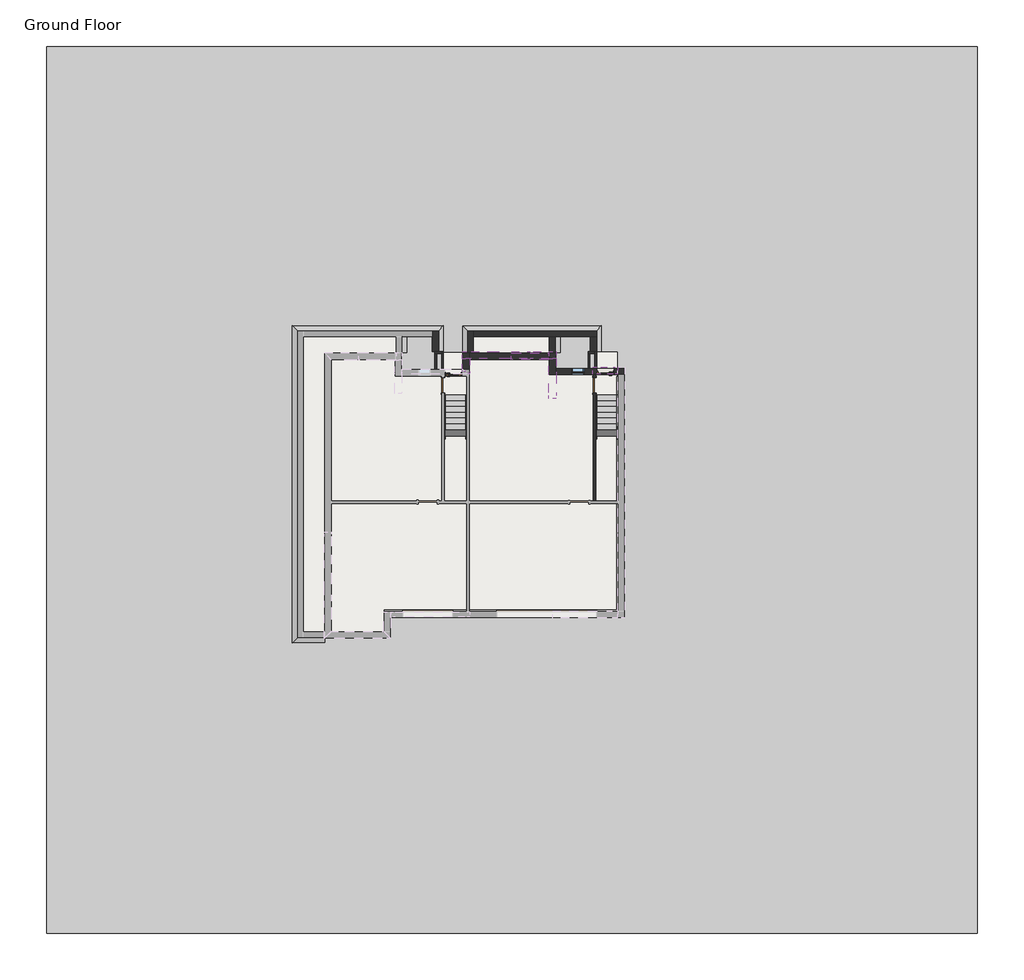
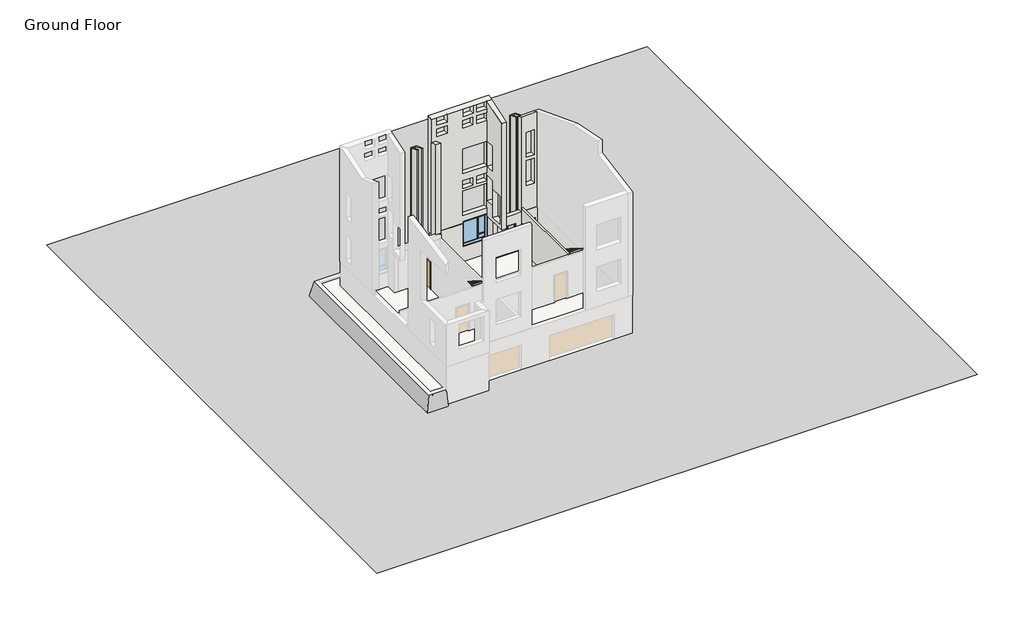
# One storey, part 2 of 2: 20 walls, 10 proxies, 4 doors, 4 members, 4 slabs, 2 stair flights, 2 windows.
"""IFC4 building model written with IfcOpenShell, lengths in millimetres."""

from ifc_helpers import new_model, si_unit, frame, origin, place, context, project, spatial, polyline, outline, extrude, faceted_brep, triangles, transform, mapped, element, save
from components import door_c549eee2, door_6cd5b398, door_f8acb57e, stair_flight_0e8ae0be, stair_flight_49ee623f, window_ca6665d5, window_0918d598

model = new_model("IFC4")

# Units and contexts
model_context = context("Model", 3, world=origin())
ifc_project = project(units=[si_unit("LENGTHUNIT", "METRE", prefix="MILLI")], contexts=[model_context])

# Site, building, storey
site = spatial("IfcSite", under=ifc_project)
building = spatial("IfcBuilding", under=site)
storey = spatial("IfcBuildingStorey", under=building, Name="Ground Floor", Elevation=-3352.8)

# Proxies
placement = place(None, origin())
element("IfcBuildingElementProxy", 1, Name="Wall Sweeps", at=placement, inside=storey, context=model_context, shape_type="Brep", body=[
    faceted_brep([(-10227.7074129, -7419.7196644, -3352.8), (-9990.71894, -7182.7311915, -3352.8), (-9990.71894, -7182.7311915, -2133.6), (-10227.7074129, 8059.3072814, -3352.8), (-9990.7189399, 7822.3188085, -2133.6), (-9990.7189399, 7822.3188085, -3352.8)], [[[0, 1, 2]], [[3, 4, 5]], [[1, 0, 3, 5]], [[2, 1, 5, 4]], [[0, 2, 4, 3]]]),
])
element("IfcBuildingElementProxy", 2, Name="Wall Sweeps", at=placement, inside=storey, context=model_context, shape_type="Brep", body=[
    faceted_brep([(-10227.7074129, 8059.3072814, -3352.8), (-9990.7189399, 7822.3188085, -3352.8), (-9990.7189399, 7822.3188085, -2133.6), (-2853.5235601, 8059.3072814, -3352.8), (-3090.512033, 7822.3188085, -2133.6), (-3090.512033, 7822.3188085, -3352.8), (-3395.312033, 7822.3188085, -3352.8), (-9685.9189399, 7822.3188085, -3352.8)], [[[0, 1, 2]], [[3, 4, 5]], [[1, 0, 3, 5, 6, 7]], [[2, 1, 7, 6, 5, 4]], [[0, 2, 4, 3]]]),
])
element("IfcBuildingElementProxy", 3, Name="Wall Sweeps", at=placement, inside=storey, context=model_context, shape_type="Brep", body=[
    faceted_brep([(-2853.5235601, 8059.3072814, -3352.8), (-3090.512033, 7822.3188085, -3352.8), (-3090.512033, 7822.3188085, -2133.6), (-2853.5235601, 6797.6813085, -3352.8), (-3090.512033, 6797.6813085, -2133.6), (-3090.512033, 6797.6813085, -3352.8)], [[[0, 1, 2]], [[3, 4, 5]], [[1, 0, 3, 5]], [[2, 1, 5, 4]], [[0, 2, 4, 3]]]),
])
element("IfcBuildingElementProxy", 4, Name="Wall Sweeps", at=placement, inside=storey, context=model_context, shape_type="Brep", body=[
    faceted_brep([(-1930.1321781, 6743.5063085, -3352.8), (-1693.1437052, 6743.5063085, -3352.8), (-1693.1437052, 6743.5063085, -2133.6), (-1930.1321781, 8059.3072814, -3352.8), (-1693.1437052, 7822.3188085, -2133.6), (-1693.1437052, 7822.3188085, -3352.8)], [[[0, 1, 2]], [[3, 4, 5]], [[1, 0, 3, 5]], [[2, 1, 5, 4]], [[0, 2, 4, 3]]]),
])
element("IfcBuildingElementProxy", 5, Name="Wall Sweeps", at=placement, inside=storey, context=model_context, shape_type="Brep", body=[
    faceted_brep([(-1930.1321781, 8059.3072814, -3352.8), (-1693.1437052, 7822.3188085, -3352.8), (-1693.1437052, 7822.3188085, -2133.6), (4859.3565886, 8059.3072814, -3352.8), (4622.3681157, 7822.3188085, -2133.6), (4622.3681157, 7822.3188085, -3352.8), (-1388.3437052, 7822.3188085, -3352.8)], [[[0, 1, 2]], [[3, 4, 5]], [[1, 0, 3, 5, 6]], [[2, 1, 6, 5, 4]], [[0, 2, 4, 3]]]),
])
element("IfcBuildingElementProxy", 6, Name="Wall Sweeps", at=placement, inside=storey, context=model_context, shape_type="Brep", body=[
    faceted_brep([(4859.3565886, 8059.3072814, -3352.8), (4622.3681157, 7822.3188085, -3352.8), (4622.3681157, 7822.3188085, -2133.6), (4859.3565886, 6797.6813085, -3352.8), (4622.3681157, 6797.6813085, -2133.6), (4622.3681157, 6797.6813085, -3352.8), (4622.3681157, 7517.5188085, -3352.8)], [[[0, 1, 2]], [[3, 4, 5]], [[1, 0, 3, 5, 6]], [[2, 1, 6, 5, 4]], [[0, 2, 4, 3]]]),
])
element("IfcBuildingElementProxy", 7, Name="Wall Sweeps", at=placement, inside=storey, context=model_context, shape_type="SweptSolid", body=[
    extrude(outline(polyline([(-3352.8, -4619.0437052), (-2133.6, -4856.0321781), (-3352.8, -4856.0321781), (-3352.8, -4619.0437052)])), frame((0.0, 6743.5063085, 0.0), z_axis=(0.0, 1.0, 0.0), x_axis=(0.0, 0.0, 1.0)), (0.0, 0.0, 1.0), 774.0125),
])
element("IfcBuildingElementProxy", 8, Name="Wall Sweeps", at=placement, inside=storey, context=model_context, shape_type="SweptSolid", body=[
    extrude(outline(polyline([(-3352.8, 2863.2437948), (-2133.6, 2626.2553219), (-3352.8, 2626.2553219), (-3352.8, 2863.2437948)])), frame((0.0, 6743.5063085, 0.0), z_axis=(0.0, 1.0, 0.0), x_axis=(0.0, 0.0, 1.0)), (0.0, 0.0, 1.0), 774.0125),
])
element("IfcBuildingElementProxy", 9, Name="Wall Sweeps", at=placement, inside=storey, context=model_context, shape_type="Brep", body=[
    faceted_brep([(-10227.7074129, -7419.7196644, -3352.8), (-9990.71894, -7182.7311915, -2133.6), (-9990.71894, -7182.7311915, -3352.8), (-8634.8446781, -7419.7196644, -3352.8), (-8634.8446781, -7182.7311915, -3352.8), (-8634.8446781, -7182.7311915, -2133.6), (-9685.91894, -7182.7311915, -3352.8)], [[[0, 1, 2]], [[3, 4, 5]], [[1, 0, 3, 5]], [[2, 1, 5, 4, 6]], [[0, 2, 6, 4, 3]]]),
])
element("IfcBuildingElementProxy", 10, Name="Building Element Proxy", at=placement, inside=storey, context=model_context, shape_type="Tessellation", body=[
    triangles([(-22213.6324768, 21686.9692749, -3352.8), (-22213.6324768, -21594.6307251, -3352.8), (23201.5675232, -21594.6307251, -3352.8), (23201.5675232, 21686.9692749, -3352.8), (-8639.2697617, -7182.7313416, -3352.8), (-8639.2697617, 6718.1062134, -3352.8), (-4906.8318878, 6718.1062134, -3352.8), (-4906.8318878, 5912.9687302, -3352.8), (-2853.5234985, 5912.9687302, -3352.8), (-2853.5234985, 6718.1062134, -3352.8), (2626.255394, 6718.1062134, -3352.8), (2626.255394, 5970.1187302, -3352.8), (4622.3681465, 5970.1187302, -3352.8), (4622.3681465, 6763.3063614, -3352.8), (5617.580365, 6762.9313843, -3352.8), (5617.580365, 5970.1187302, -3352.8), (5971.2657532, 5970.1187302, -3352.8), (5971.2657532, 5266.1436768, -3352.8), (5971.2657532, -6186.9049164, -3352.8), (-5437.2820679, -6186.9049164, -3352.8), (-5437.2820679, -7182.7313416, -3352.8), (-7091.2863419, -7182.7313416, -3352.8)], [[2, 5, 6], [5, 2, 22], [21, 22, 2], [2, 3, 21], [1, 6, 7], [6, 1, 2], [1, 7, 10], [8, 9, 10], [8, 10, 7], [1, 10, 11], [20, 21, 19], [12, 13, 11], [18, 19, 3], [3, 19, 21], [18, 3, 4], [13, 14, 11], [11, 14, 4], [15, 17, 4], [17, 15, 16], [4, 17, 18], [15, 4, 14], [11, 4, 1]], closed=False),
])

# Doors
door_shape = door_c549eee2(model_context)
element("IfcDoor", 11, ObjectType="Door-Passage-Single-Full_Lite : 30\" x 84\"", at=placement, inside=storey, context=model_context, shape_type="MappedRepresentation", body=[
    mapped(door_shape, transform((5056.8655789, 5824.0687973, -3352.8), x_axis=(-1.0, 0.0, 0.0), y_axis=(0.0, -1.0, 0.0), z_axis=(0.0, 0.0, 1.0))),
])
door_2_shape = door_6cd5b398(model_context)
element("IfcDoor", 12, ObjectType="Door-Passage-Single-Full_Lite : 30\" x 84\"", at=placement, inside=storey, context=model_context, shape_type="MappedRepresentation", body=[
    mapped(door_2_shape, transform((-2361.9321781, 5766.9187973, -3352.8), x_axis=(1.0, 0.0, 0.0), y_axis=(0.0, 1.0, 0.0), z_axis=(0.0, 0.0, 1.0))),
])
door_3_shape = door_f8acb57e(model_context)
element("IfcDoor", 13, ObjectType="Single-Flush : 30\" x 84\"", at=placement, inside=storey, context=model_context, shape_type="MappedRepresentation", body=[
    mapped(door_3_shape, transform((-2877.8696781, 5150.9688085, -3352.8), x_axis=(0.0, 1.0, 0.0), y_axis=(-1.0, 0.0, 0.0), z_axis=(0.0, 0.0, 1.0))),
])
element("IfcDoor", 14, ObjectType="Single-Flush : 30\" x 84\"", at=placement, inside=storey, context=model_context, shape_type="MappedRepresentation", body=[
    mapped(door_3_shape, transform((4512.3530789, 5150.9687973, -3352.8), x_axis=(0.0, 1.0, 0.0), y_axis=(-1.0, 0.0, 0.0), z_axis=(0.0, 0.0, 1.0))),
])

# Members
element("IfcMember", 15, ObjectType="Stringer - 2\" Width", at=placement, inside=storey, context=model_context, shape_type="SweptSolid", body=[
    extrude(outline(polyline([(4664.2563085, -3138.2556274), (4664.2563085, -3352.8), (4433.1575568, -3352.8), (-364.9436915, -322.4202643), (-364.9436915, 38.0812147), (4664.2563085, -3138.2556274)])), frame((-1774.5571781, 0.0, 0.0), z_axis=(1.0, 0.0, 0.0), x_axis=(0.0, 1.0, 0.0)), (0.0, 0.0, 1.0), 50.8),
])
element("IfcMember", 16, ObjectType="Stringer - 2\" Width", at=placement, inside=storey, context=model_context, shape_type="SweptSolid", body=[
    extrude(outline(polyline([(4664.2563085, -3138.2556274), (4664.2563085, -3352.8), (4433.1575568, -3352.8), (-364.9436915, -322.4202643), (-364.9436915, 38.0812147), (4664.2563085, -3138.2556274)])), frame((-2815.9571781, 0.0, 0.0), z_axis=(1.0, 0.0, 0.0), x_axis=(0.0, 1.0, 0.0)), (0.0, 0.0, 1.0), 50.8),
])
element("IfcMember", 17, ObjectType="Stringer - 2\" Width", at=placement, inside=storey, context=model_context, shape_type="SweptSolid", body=[
    extrude(outline(polyline([(4664.2563085, -3138.2556274), (4664.2563085, -3352.8), (4433.1575568, -3352.8), (-364.9436915, -322.4202643), (-364.9436915, 38.0812147), (4664.2563085, -3138.2556274)])), frame((5615.6655789, 0.0, 0.0), z_axis=(1.0, 0.0, 0.0), x_axis=(0.0, 1.0, 0.0)), (0.0, 0.0, 1.0), 50.8),
])
element("IfcMember", 18, ObjectType="Stringer - 2\" Width", at=placement, inside=storey, context=model_context, shape_type="SweptSolid", body=[
    extrude(outline(polyline([(4664.2563085, -3138.2556274), (4664.2563085, -3352.8), (4433.1575568, -3352.8), (-364.9436915, -322.4202643), (-364.9436915, 38.0812147), (4664.2563085, -3138.2556274)])), frame((4574.2655789, 0.0, 0.0), z_axis=(1.0, 0.0, 0.0), x_axis=(0.0, 1.0, 0.0)), (0.0, 0.0, 1.0), 50.8),
])

# Slabs
element("IfcSlab", 19, ObjectType="Generic - 12\"", at=placement, inside=storey, context=model_context, shape_type="SweptSolid", body=[
    extrude(outline(polyline([(-5211.6321781, 6413.3063085), (-5211.6321781, 5582.7688085), (-2853.5235601, 5582.7688085), (-2853.5235601, 6744.2563085), (-1904.7321781, 6744.2563085), (-1904.7321781, 5912.9687973), (-1980.9321781, 5912.9687973), (-1980.9321781, 5582.7688085), (-1599.9321781, 5582.7688085), (-1599.9321781, 6413.3063085), (2321.4553219, 6413.3063085), (2321.4553219, 5665.3187973), (4622.3681157, 5665.3187973), (4622.3681157, 6763.3063085), (5619.4139399, 6762.9313085), (5619.4139399, 5608.4393825), (5585.5030788, 5608.4393825), (5585.5030788, -5801.1421456), (-5767.4821781, -5801.1421456), (-5767.4821781, -6852.5311915), (-8310.6571781, -6852.5311915), (-8310.6571781, 6413.3063085), (-5211.6321781, 6413.3063085)])), frame((0.0, 0.0, -3657.6), z_axis=(0.0, 0.0, 1.0), x_axis=(1.0, 0.0, 0.0)), (0.0, 0.0, 1.0), 304.8),
])
element("IfcSlab", 20, ObjectType="Grass", at=placement, inside=storey, context=model_context, shape_type="SweptSolid", body=[
    extrude(outline(polyline([(-5160.8321781, 7517.5188085), (-5160.8321781, 6743.5063085), (-8660.2446781, 6743.5063085), (-8660.2446781, -6877.9311915), (-9685.91894, -6877.9311915), (-9685.91894, 7517.5188085), (-5160.8321781, 7517.5188085)])), frame((0.0, 0.0, -2278.2), z_axis=(0.0, 0.0, 1.0), x_axis=(1.0, 0.0, 0.0)), (0.0, 0.0, 1.0), 25.4),
])
element("IfcSlab", 21, ObjectType="Grass", at=placement, inside=storey, context=model_context, shape_type="SweptSolid", body=[
    extrude(outline(polyline([(-1388.3437052, 7517.5188085), (2321.4553219, 7517.5188085), (2321.4553219, 6718.1063085), (-1388.3437052, 6718.1063085), (-1388.3437052, 7517.5188085)])), frame((0.0, 0.0, -2278.2), z_axis=(0.0, 0.0, 1.0), x_axis=(1.0, 0.0, 0.0)), (0.0, 0.0, 1.0), 25.4),
])
element("IfcSlab", 22, ObjectType="Pad 1", at=placement, inside=storey, context=model_context, shape_type="SweptSolid", body=[
    extrude(outline(polyline([(-8639.2696781, -7182.7311915), (-8639.2696781, 6718.1063085), (-4906.8321781, 6718.1063085), (-4906.8321781, 5912.9687973), (-2853.5235601, 5912.9687973), (-2853.5235601, 6718.1063085), (2626.2553219, 6718.1063085), (2626.2553219, 5970.1187973), (4622.3681157, 5970.1187973), (4622.3681157, 6763.3063085), (5617.5803262, 6762.9313085), (5617.5803262, 5970.1187973), (5971.2655789, 5970.1187973), (5971.2655789, -6186.9046456), (-5437.2821781, -6186.9046456), (-5437.2821781, -7182.7311915), (-8639.2696781, -7182.7311915)])), frame((0.0, 0.0, -3962.4), z_axis=(0.0, 0.0, 1.0), x_axis=(1.0, 0.0, 0.0)), (0.0, 0.0, 1.0), 304.8),
])

# Stair flights
stair_flight_shape = stair_flight_0e8ae0be(model_context)
element("IfcStairFlight", 23, ObjectType="2\" Tread 1\" Nosing 1/4\" Riser", at=placement, inside=storey, context=model_context, shape_type="MappedRepresentation", body=[
    mapped(stair_flight_shape, transform((0.0, 0.0, 0.0), x_axis=(1.0, 0.0, 0.0), y_axis=(0.0, 1.0, 0.0), z_axis=(0.0, 0.0, 1.0))),
])
stair_flight_2_shape = stair_flight_49ee623f(model_context)
element("IfcStairFlight", 24, ObjectType="2\" Tread 1\" Nosing 1/4\" Riser", at=placement, inside=storey, context=model_context, shape_type="MappedRepresentation", body=[
    mapped(stair_flight_2_shape, transform((0.0, 0.0, 0.0), x_axis=(1.0, 0.0, 0.0), y_axis=(0.0, 1.0, 0.0), z_axis=(0.0, 0.0, 1.0))),
])

# Walls
element("IfcWall", 25, ObjectType="Exterior - Brick - Gray", at=placement, inside=storey, context=model_context, shape_type="Brep", body=[
    faceted_brep([(4622.3681157, 5995.5187973, -3352.8), (4622.3681157, 6797.6813085, -3352.8), (4622.3681157, 6797.6813085, 6846.4925469), (4622.3681157, 5995.5187973, 7155.302725), (4533.4681157, 5995.5187973, -3352.8), (4533.4681157, 5995.5187973, 7155.302725), (4533.4681157, 6708.7813085, 6880.7165657), (4533.4681157, 6797.6813085, 6846.4925469), (4533.4681157, 6797.6813085, -3352.8), (4533.4681157, 6708.7813085, -3352.8)], [[[0, 1, 2, 3]], [[4, 5, 6, 7, 8, 9]], [[1, 0, 4, 9, 8]], [[0, 3, 5, 4]], [[2, 1, 8, 7]], [[3, 2, 7, 6, 5]]]),
])
element("IfcWall", 26, ObjectType="Exterior - Brick - Gray", at=placement, inside=storey, context=model_context, shape_type="Brep", body=[
    faceted_brep([(4533.4681157, 6797.6813085, -3352.8), (4204.5264399, 6797.6813085, -3352.8), (4204.5264399, 6797.6813085, 6846.4925469), (4533.4681157, 6797.6813085, 6846.4925469), (4533.4681157, 6708.7813085, -3352.8), (4533.4681157, 6708.7813085, 6880.7165657), (4293.4264399, 6708.7813085, 6880.7165657), (4204.5264399, 6708.7813085, 6880.7165657), (4204.5264399, 6708.7813085, -3352.8), (4293.4264399, 6708.7813085, -3352.8)], [[[0, 1, 2, 3]], [[4, 5, 6, 7, 8, 9]], [[1, 0, 4, 9, 8]], [[2, 1, 8, 7]], [[0, 3, 5, 4]], [[3, 2, 7, 6, 5]]]),
])
element("IfcWall", 27, ObjectType="Exterior - Brick - Gray", at=placement, inside=storey, context=model_context, shape_type="SweptSolid", body=[
    extrude(outline(polyline([(6708.7813085, -3352.8), (5995.5187973, -3352.8), (5995.5187973, 7155.302725), (6708.7813085, 6880.7165657), (6708.7813085, -3352.8)])), frame((4204.5264399, 0.0, 0.0), z_axis=(1.0, 0.0, 0.0), x_axis=(0.0, 1.0, 0.0)), (0.0, 0.0, 1.0), 88.9),
])
element("IfcWall", 28, ObjectType="Exterior - Brick - Gray", at=placement, inside=storey, context=model_context, shape_type="Brep", body=[
    faceted_brep([(-2853.5235601, 5912.9687973, -3352.8), (-2853.5235601, 6797.6813085, -3352.8), (-2853.5235601, 6797.6813085, 6846.4925469), (-2853.5235601, 5912.9687973, 7187.082171), (-2942.4235601, 5912.9687973, -3352.8), (-2942.4235601, 5912.9687973, 7187.082171), (-2942.4235601, 6708.7813085, 6880.7165657), (-2942.4235601, 6797.6813085, 6846.4925469), (-2942.4235601, 6797.6813085, -3352.8), (-2942.4235601, 6708.7813085, -3352.8)], [[[0, 1, 2, 3]], [[4, 5, 6, 7, 8, 9]], [[1, 0, 4, 9, 8]], [[2, 1, 8, 7]], [[0, 3, 5, 4]], [[3, 2, 7, 6, 5]]]),
])
element("IfcWall", 29, ObjectType="Exterior - Brick - Gray", at=placement, inside=storey, context=model_context, shape_type="Brep", body=[
    faceted_brep([(-2942.4235601, 6797.6813085, -3352.8), (-3266.2735601, 6797.6813085, -3352.8), (-3266.2735601, 6797.6813085, 6846.4925469), (-2942.4235601, 6797.6813085, 6846.4925469), (-2942.4235601, 6708.7813085, -3352.8), (-2942.4235601, 6708.7813085, 6880.7165657), (-3177.3735601, 6708.7813085, 6880.7165657), (-3266.2735601, 6708.7813085, 6880.7165657), (-3266.2735601, 6708.7813085, -3352.8), (-3177.3735601, 6708.7813085, -3352.8)], [[[0, 1, 2, 3]], [[4, 5, 6, 7, 8, 9]], [[1, 0, 4, 9, 8]], [[2, 1, 8, 7]], [[0, 3, 5, 4]], [[3, 2, 7, 6, 5]]]),
])
element("IfcWall", 30, ObjectType="Exterior - Brick - Gray", at=placement, inside=storey, context=model_context, shape_type="SweptSolid", body=[
    extrude(outline(polyline([(6708.7813085, -3352.8), (5938.3687973, -3352.8), (5938.3687973, 7177.3038799), (6708.7813085, 6880.7165657), (6708.7813085, -3352.8)])), frame((-3266.2735601, 0.0, 0.0), z_axis=(1.0, 0.0, 0.0), x_axis=(0.0, 1.0, 0.0)), (0.0, 0.0, 1.0), 88.9),
])
element("IfcWall", 31, ObjectType="Exterior - Brick on Mtl. Stud", at=placement, inside=storey, context=model_context, shape_type="Brep", body=[
    faceted_brep([(-1928.5446781, 6447.0188085, 8841.1995281), (-1928.5446781, 6447.0188085, 7308.0940019), (-1928.5446781, 6447.0188085, 6981.4878222), (-1928.5446781, 6447.0188085, -304.8), (-1576.1196781, 6447.0188085, -304.8), (468.8428219, 6447.0188085, -304.8), (468.8428219, 6447.0188085, -152.4), (2297.6428219, 6447.0188085, -152.4), (2297.6428219, 6447.0188085, -304.8), (2650.0678219, 6447.0188085, -304.8), (2650.0678219, 6447.0188085, 8841.1995281), (2297.6428219, 6447.0188085, 8841.1995281), (-1576.1196781, 6447.0188085, 8841.1995281), (2298.8553219, 6447.0188085, 3098.8), (2298.8553219, 6447.0188085, 2489.2), (1536.8553219, 6447.0188085, 2489.2), (1536.8553219, 6447.0188085, 3098.8), (2298.8553219, 6447.0188085, 5638.8), (2298.8553219, 6447.0188085, 3657.6), (470.0553219, 6447.0188085, 3657.6), (470.0553219, 6447.0188085, 5638.8), (2298.8553219, 6447.0188085, 7924.8), (2298.8553219, 6447.0188085, 7315.2), (1536.8553219, 6447.0188085, 7315.2), (1536.8553219, 6447.0188085, 7924.8), (2298.8553219, 6447.0188085, 8839.2), (2298.8553219, 6447.0188085, 8229.6), (1536.8553219, 6447.0188085, 8229.6), (1536.8553219, 6447.0188085, 8839.2), (2298.8553219, 6447.0188085, 2286.0), (2298.8553219, 6447.0188085, 304.8), (470.0553219, 6447.0188085, 304.8), (470.0553219, 6447.0188085, 2286.0), (1232.0553219, 6447.0188085, 3098.8), (1232.0553219, 6447.0188085, 2489.2), (470.0553219, 6447.0188085, 2489.2), (470.0553219, 6447.0188085, 3098.8), (1246.4553219, 6447.0188085, 8839.2), (1246.4553219, 6447.0188085, 8229.6), (484.4553219, 6447.0188085, 8229.6), (484.4553219, 6447.0188085, 8839.2), (-721.7446781, 6447.0188085, 7924.8), (-721.7446781, 6447.0188085, 7315.2), (-1483.7446781, 6447.0188085, 7315.2), (-1483.7446781, 6447.0188085, 7924.8), (-721.7446781, 6447.0188085, 8839.2), (-721.7446781, 6447.0188085, 8229.6), (-1483.7446781, 6447.0188085, 8229.6), (-1483.7446781, 6447.0188085, 8839.2), (1232.0553219, 6447.0188085, 7924.8), (1232.0553219, 6447.0188085, 7315.2), (470.0553219, 6447.0188085, 7315.2), (470.0553219, 6447.0188085, 7924.8), (-1928.5446781, 6799.4438085, -304.8), (-1928.5446781, 6799.4438085, 8957.0833207), (2650.0678219, 6799.4438085, 8957.0833207), (2650.0678219, 6799.4438085, -304.8), (2297.6428219, 6799.4438085, -304.8), (2297.6428219, 6799.4438085, -152.4), (468.8428219, 6799.4438085, -152.4), (468.8428219, 6799.4438085, -304.8), (2298.8553219, 6799.4438085, 2489.2), (2298.8553219, 6799.4438085, 3098.8), (1536.8553219, 6799.4438085, 3098.8), (1536.8553219, 6799.4438085, 2489.2), (2298.8553219, 6799.4438085, 3657.6), (2298.8553219, 6799.4438085, 5638.8), (470.0553219, 6799.4438085, 5638.8), (470.0553219, 6799.4438085, 3657.6), (2298.8553219, 6799.4438085, 7315.2), (2298.8553219, 6799.4438085, 7924.8), (1536.8553219, 6799.4438085, 7924.8), (1536.8553219, 6799.4438085, 7315.2), (2298.8553219, 6799.4438085, 8229.6), (2298.8553219, 6799.4438085, 8839.2), (1536.8553219, 6799.4438085, 8839.2), (1536.8553219, 6799.4438085, 8229.6), (2298.8553219, 6799.4438085, 304.8), (2298.8553219, 6799.4438085, 2286.0), (470.0553219, 6799.4438085, 2286.0), (470.0553219, 6799.4438085, 304.8), (1232.0553219, 6799.4438085, 2489.2), (1232.0553219, 6799.4438085, 3098.8), (470.0553219, 6799.4438085, 3098.8), (470.0553219, 6799.4438085, 2489.2), (1246.4553219, 6799.4438085, 8229.6), (1246.4553219, 6799.4438085, 8839.2), (484.4553219, 6799.4438085, 8839.2), (484.4553219, 6799.4438085, 8229.6), (-721.7446781, 6799.4438085, 7315.2), (-721.7446781, 6799.4438085, 7924.8), (-1483.7446781, 6799.4438085, 7924.8), (-1483.7446781, 6799.4438085, 7315.2), (-721.7446781, 6799.4438085, 8229.6), (-721.7446781, 6799.4438085, 8839.2), (-1483.7446781, 6799.4438085, 8839.2), (-1483.7446781, 6799.4438085, 8229.6), (1232.0553219, 6799.4438085, 7924.8), (470.0553219, 6799.4438085, 7924.8), (470.0553219, 6799.4438085, 7315.2), (1232.0553219, 6799.4438085, 7315.2)], [[[0, 1, 2, 3, 4, 5, 6, 7, 8, 9, 10, 11, 12], [13, 14, 15, 16], [17, 18, 19, 20], [21, 22, 23, 24], [25, 26, 27, 28], [29, 30, 31, 32], [33, 34, 35, 36], [37, 38, 39, 40], [41, 42, 43, 44], [45, 46, 47, 48], [49, 50, 51, 52]], [[53, 54, 55, 56, 57, 58, 59, 60], [61, 62, 63, 64], [65, 66, 67, 68], [69, 70, 71, 72], [73, 74, 75, 76], [77, 78, 79, 80], [81, 82, 83, 84], [85, 86, 87, 88], [89, 90, 91, 92], [93, 94, 95, 96], [97, 98, 99, 100]], [[3, 53, 60, 5, 4]], [[56, 9, 8, 57]], [[3, 2, 1, 0, 54, 53]], [[0, 12, 11, 10, 55, 54]], [[10, 9, 56, 55]], [[7, 58, 57, 8]], [[59, 6, 5, 60]], [[58, 7, 6, 59]], [[13, 62, 61, 14]], [[14, 61, 64, 15]], [[15, 64, 63, 16]], [[62, 13, 16, 63]], [[17, 66, 65, 18]], [[18, 65, 68, 19]], [[19, 68, 67, 20]], [[66, 17, 20, 67]], [[21, 70, 69, 22]], [[22, 69, 72, 23]], [[23, 72, 71, 24]], [[70, 21, 24, 71]], [[25, 74, 73, 26]], [[26, 73, 76, 27]], [[27, 76, 75, 28]], [[74, 25, 28, 75]], [[29, 78, 77, 30]], [[30, 77, 80, 31]], [[31, 80, 79, 32]], [[78, 29, 32, 79]], [[34, 33, 82, 81]], [[35, 34, 81, 84]], [[36, 35, 84, 83]], [[33, 36, 83, 82]], [[37, 86, 85, 38]], [[38, 85, 88, 39]], [[39, 88, 87, 40]], [[86, 37, 40, 87]], [[42, 41, 90, 89]], [[43, 42, 89, 92]], [[44, 43, 92, 91]], [[41, 44, 91, 90]], [[45, 94, 93, 46]], [[46, 93, 96, 47]], [[47, 96, 95, 48]], [[94, 45, 48, 95]], [[50, 49, 97, 100]], [[51, 50, 100, 99]], [[52, 51, 99, 98]], [[49, 52, 98, 97]]]),
])
element("IfcWall", 32, ObjectType="Exterior - Brick on Mtl. Stud", at=placement, inside=storey, context=model_context, shape_type="Brep", body=[
    faceted_brep([(-1928.5446781, 6447.0188085, -304.8), (-1928.5446781, 5938.3687973, -304.8), (-1928.5446781, 5938.3687973, 0.0), (-1928.5446781, 5817.7187973, 0.0), (-1928.5446781, 5817.7187973, 7223.7507625), (-1928.5446781, 5938.3687973, 7177.3038799), (-1928.5446781, 6447.0188085, 6981.4878222), (-1576.1196781, 6447.0188085, -304.8), (-1576.1196781, 6447.0188085, 6981.4878222), (-1576.1196781, 5817.7187973, 7223.7507625), (-1576.1196781, 5817.7187973, 0.0), (-1576.1196781, 5697.0687973, 0.0), (-1576.1196781, 5697.0687973, -304.8), (-1752.3321781, 5817.7187973, 0.0), (-1699.9446781, 5817.7187973, 0.0), (-1699.9446781, 5817.7187973, 7223.7507625)], [[[0, 1, 2, 3, 4, 5, 6]], [[7, 8, 9, 10, 11, 12]], [[1, 0, 7, 12]], [[4, 3, 13, 14, 10, 9, 15]], [[10, 14, 13, 11]], [[2, 1, 12, 11, 13]], [[13, 3, 2]], [[0, 6, 8, 7]], [[6, 5, 4, 15, 9, 8]]]),
])
element("IfcWall", 33, ObjectType="Exterior - Brick on Mtl. Stud", at=placement, inside=storey, context=model_context, shape_type="Brep", body=[
    faceted_brep([(2650.0678219, 6447.0188085, -304.8), (2650.0678219, 6447.0188085, 8841.1995281), (2650.0678219, 4511.8563085, 8204.8826668), (2650.0678219, 4511.8563085, 7726.4713734), (2650.0678219, 4511.8563085, 0.0), (2650.0678219, 4511.8563085, -304.8), (2650.0678219, 6394.6313085, 5638.8), (2650.0678219, 6394.6313085, 3657.6), (2650.0678219, 5785.0313085, 3657.6), (2650.0678219, 5785.0313085, 5638.8), (2650.0678219, 4803.9563085, 0.0), (2650.0678219, 4803.9563085, 2235.2), (2650.0678219, 5667.5563085, 2235.2), (2650.0678219, 5667.5563085, 0.0), (2650.0678219, 6394.6313085, 2895.6), (2650.0678219, 6394.6313085, 914.4), (2650.0678219, 5785.0313085, 914.4), (2650.0678219, 5785.0313085, 2895.6), (2297.6428219, 6447.0188085, -304.8), (2297.6428219, 4511.8563085, -304.8), (2297.6428219, 4511.8563085, 8204.8826668), (2297.6428219, 6447.0188085, 8841.1995281), (2297.6428219, 6447.0188085, -152.4), (2297.6428219, 6394.6313085, 5638.8), (2297.6428219, 5785.0313085, 5638.8), (2297.6428219, 5785.0313085, 3657.6), (2297.6428219, 6394.6313085, 3657.6), (2297.6428219, 4803.9563085, 0.0), (2297.6428219, 5667.5563085, 0.0), (2297.6428219, 5667.5563085, 2235.2), (2297.6428219, 4803.9563085, 2235.2), (2297.6428219, 6394.6313085, 2895.6), (2297.6428219, 5785.0313085, 2895.6), (2297.6428219, 5785.0313085, 914.4), (2297.6428219, 6394.6313085, 914.4)], [[[0, 1, 2, 3, 4, 5], [6, 7, 8, 9], [10, 11, 12, 13], [14, 15, 16, 17]], [[18, 19, 20, 21, 22], [23, 24, 25, 26], [27, 28, 29, 30], [31, 32, 33, 34]], [[19, 18, 0, 5]], [[21, 20, 2, 1]], [[20, 19, 5, 4, 3, 2]], [[18, 22, 21, 1, 0]], [[7, 6, 23, 26]], [[8, 7, 26, 25]], [[9, 8, 25, 24]], [[6, 9, 24, 23]], [[11, 10, 27, 30]], [[12, 11, 30, 29]], [[13, 12, 29, 28]], [[10, 13, 28, 27]], [[15, 14, 31, 34]], [[16, 15, 34, 33]], [[17, 16, 33, 32]], [[14, 17, 32, 31]]]),
])
element("IfcWall", 34, ObjectType="Exterior - Brick on Mtl. Stud", at=placement, inside=storey, context=model_context, shape_type="Brep", body=[
    faceted_brep([(4442.1014399, 6051.0812973, -304.8), (4442.1014399, 6051.0812973, 0.0), (4442.1014399, 6051.0812973, 7133.9127133), (5642.6530789, 6051.0812973, 7133.9127133), (5642.6530789, 6051.0812973, -304.8), (5435.5683532, 6051.0812973, 5892.8), (4825.9683532, 6051.0812973, 5892.8), (4825.9683532, 6051.0812973, 3911.6), (5435.5683532, 6051.0812973, 3911.6), (5435.5683532, 6051.0812973, 3632.2), (4825.9683532, 6051.0812973, 3632.2), (4825.9683532, 6051.0812973, 1651.0), (5435.5683532, 6051.0812973, 1651.0), (4442.1014399, 5698.6562973, -304.8), (5642.6530789, 5698.6562973, -304.8), (5642.6530789, 5698.6562973, 7269.5865019), (4442.1014399, 5698.6562973, 7269.5865019), (5435.5683532, 5698.6562973, 5892.8), (5435.5683532, 5698.6562973, 3911.6), (4825.9683532, 5698.6562973, 3911.6), (4825.9683532, 5698.6562973, 5892.8), (5435.5683532, 5698.6562973, 3632.2), (5435.5683532, 5698.6562973, 1651.0), (4825.9683532, 5698.6562973, 1651.0), (4825.9683532, 5698.6562973, 3632.2)], [[[0, 1, 2, 3, 4], [5, 6, 7, 8], [9, 10, 11, 12]], [[13, 14, 15, 16], [17, 18, 19, 20], [21, 22, 23, 24]], [[14, 13, 0, 4]], [[13, 16, 2, 1, 0]], [[15, 14, 4, 3]], [[16, 15, 3, 2]], [[18, 17, 5, 8]], [[19, 18, 8, 7]], [[20, 19, 7, 6]], [[17, 20, 6, 5]], [[22, 21, 9, 12]], [[23, 22, 12, 11]], [[24, 23, 11, 10]], [[21, 24, 10, 9]]]),
])
element("IfcWall", 35, ObjectType="Foundation - 12\" Concrete", at=placement, inside=storey, context=model_context, shape_type="Brep", body=[
    faceted_brep([(-1599.9321781, 5912.9687973, -5181.6), (-1599.9321781, 6413.3063085, -5181.6), (-1599.9321781, 6718.1063085, -5181.6), (-1599.9321781, 6718.1063085, -304.8), (-1599.9321781, 6413.3063085, -304.8), (-1599.9321781, 5912.9687973, -304.8), (-1904.7321781, 5912.9687973, -5181.6), (-1904.7321781, 5912.9687973, -304.8), (-1904.7321781, 6718.1063085, -304.8), (-1904.7321781, 6718.1063085, -5181.6)], [[[0, 1, 2, 3, 4, 5]], [[6, 7, 8, 9]], [[2, 1, 0, 6, 9]], [[5, 4, 3, 8, 7]], [[3, 2, 9, 8]], [[0, 5, 7, 6]]]),
])
element("IfcWall", 36, ObjectType="Foundation - 12\" Concrete", at=placement, inside=storey, context=model_context, shape_type="SweptSolid", body=[
    extrude(outline(polyline([(-5181.6, -1599.9321781), (-5181.6, 2321.4553219), (-304.8, 2321.4553219), (-304.8, 2297.6428219), (-2133.6, 2297.6428219), (-2133.6, 468.8428219), (-304.8, 468.8428219), (-304.8, -1599.9321781), (-5181.6, -1599.9321781)])), frame((0.0, 6413.3063085, 0.0), z_axis=(0.0, 1.0, 0.0), x_axis=(0.0, 0.0, 1.0)), (0.0, 0.0, 1.0), 304.8),
])
element("IfcWall", 37, ObjectType="Foundation - 12\" Concrete", at=placement, inside=storey, context=model_context, shape_type="Brep", body=[
    faceted_brep([(2321.4553219, 6718.1063085, -5181.6), (2321.4553219, 6413.3063085, -5181.6), (2321.4553219, 5665.3187973, -5181.6), (2321.4553219, 5665.3187973, -304.8), (2321.4553219, 6413.3063085, -304.8), (2321.4553219, 6718.1063085, -304.8), (2626.2553219, 6718.1063085, -5181.6), (2626.2553219, 6718.1063085, -304.8), (2626.2553219, 5970.1187973, -304.8), (2626.2553219, 5665.3187973, -304.8), (2626.2553219, 5665.3187973, -5181.6), (2626.2553219, 5970.1187973, -5181.6)], [[[0, 1, 2, 3, 4, 5]], [[6, 7, 8, 9, 10, 11]], [[2, 1, 0, 6, 11, 10]], [[5, 4, 3, 9, 8, 7]], [[0, 5, 7, 6]], [[3, 2, 10, 9]]]),
])
element("IfcWall", 38, ObjectType="Foundation - 12\" Concrete", at=placement, inside=storey, context=model_context, shape_type="Brep", body=[
    faceted_brep([(5971.2655789, 5665.3187973, -5181.6), (5666.4655789, 5665.3187973, -5181.6), (2626.2553219, 5665.3187973, -5181.6), (2626.2553219, 5970.1187973, -5181.6), (5971.2655789, 5970.1187973, -5181.6), (2626.2553219, 5665.3187973, -304.8), (5666.4655789, 5665.3187973, -304.8), (5971.2655789, 5665.3187973, -304.8), (5971.2655789, 5970.1187973, -304.8), (2626.2553219, 5970.1187973, -304.8), (4007.1264399, 5665.3187973, -3048.0), (3397.5264399, 5665.3187973, -3048.0), (3397.5264399, 5665.3187973, -1066.8), (4007.1264399, 5665.3187973, -1066.8), (4625.0655789, 5665.3187973, -3352.8), (4625.0655789, 5665.3187973, -1117.6), (5488.6655789, 5665.3187973, -1117.6), (5488.6655789, 5665.3187973, -3352.8), (3397.5264399, 5970.1187973, -3048.0), (4007.1264399, 5970.1187973, -3048.0), (4007.1264399, 5970.1187973, -1066.8), (3397.5264399, 5970.1187973, -1066.8), (4625.0655789, 5970.1187973, -3352.8), (5488.6655789, 5970.1187973, -3352.8), (5488.6655789, 5970.1187973, -1117.6), (4625.0655789, 5970.1187973, -1117.6)], [[[0, 1, 2, 3, 4]], [[5, 6, 7, 8, 9]], [[2, 1, 0, 7, 6, 5], [10, 11, 12, 13], [14, 15, 16, 17]], [[4, 3, 9, 8], [18, 19, 20, 21], [22, 23, 24, 25]], [[2, 5, 9, 3]], [[7, 0, 4, 8]], [[11, 18, 21, 12]], [[18, 11, 10, 19]], [[19, 10, 13, 20]], [[20, 13, 12, 21]], [[15, 14, 22, 25]], [[16, 15, 25, 24]], [[17, 16, 24, 23]], [[14, 17, 23, 22]]]),
])
element("IfcWall", 39, ObjectType="Interior - 4 7/8\" Partition (1-hr)", at=placement, inside=storey, context=model_context, shape_type="SweptSolid", body=[
    extrude(outline(polyline([(5665.3187973, 0.0), (5665.3187973, -3352.8), (5531.9687973, -3352.8), (5531.9687973, -1219.2), (4769.9687973, -1219.2), (4769.9687973, -3352.8), (-489.1593139, -3352.8), (-489.1593139, 0.0), (5665.3187973, 0.0)])), frame((4450.4405789, 0.0, 0.0), z_axis=(1.0, 0.0, 0.0), x_axis=(0.0, 1.0, 0.0)), (0.0, 0.0, 1.0), 123.825),
])
element("IfcWall", 40, ObjectType="Retaining - Stone", at=placement, inside=storey, context=model_context, shape_type="Brep", body=[
    faceted_brep([(-3395.312033, 7822.3188085, -3352.8), (-3395.312033, 7517.5188085, -3352.8), (-3395.312033, 6797.6813085, -3352.8), (-3395.312033, 6797.6813085, -2133.6), (-3395.312033, 7517.5188085, -2133.6), (-3395.312033, 7822.3188085, -2133.6), (-3090.512033, 6797.6813085, -3352.8), (-3090.512033, 7822.3188085, -3352.8), (-3090.512033, 7822.3188085, -2133.6), (-3090.512033, 6797.6813085, -2133.6)], [[[0, 1, 2, 3, 4, 5]], [[6, 7, 8, 9]], [[2, 1, 0, 7, 6]], [[3, 2, 6, 9]], [[5, 4, 3, 9, 8]], [[0, 5, 8, 7]]]),
])
element("IfcWall", 41, ObjectType="Retaining - Stone", at=placement, inside=storey, context=model_context, shape_type="Brep", body=[
    faceted_brep([(-1388.3437052, 6743.5063085, -3352.8), (-1388.3437052, 7517.5188085, -3352.8), (-1388.3437052, 7822.3188085, -3352.8), (-1388.3437052, 7822.3188085, -2133.6), (-1388.3437052, 7517.5188085, -2133.6), (-1388.3437052, 6743.5063085, -2133.6), (-1693.1437052, 7822.3188085, -3352.8), (-1693.1437052, 6743.5063085, -3352.8), (-1693.1437052, 6743.5063085, -2133.6), (-1693.1437052, 7822.3188085, -2133.6)], [[[0, 1, 2, 3, 4, 5]], [[6, 7, 8, 9]], [[2, 1, 0, 7, 6]], [[5, 4, 3, 9, 8]], [[0, 5, 8, 7]], [[3, 2, 6, 9]]]),
])
element("IfcWall", 42, ObjectType="Retaining - Stone", at=placement, inside=storey, context=model_context, shape_type="Brep", body=[
    faceted_brep([(-1388.3437052, 7517.5188085, -3352.8), (2321.4553219, 7517.5188085, -3352.8), (2626.2553219, 7517.5188085, -3352.8), (4317.5681157, 7517.5188085, -3352.8), (4622.3681157, 7517.5188085, -3352.8), (4622.3681157, 7517.5188085, -2133.6), (4317.5681157, 7517.5188085, -2133.6), (2626.2553219, 7517.5188085, -2133.6), (2321.4553219, 7517.5188085, -2133.6), (-1388.3437052, 7517.5188085, -2133.6), (4622.3681157, 7822.3188085, -3352.8), (-1388.3437052, 7822.3188085, -3352.8), (-1388.3437052, 7822.3188085, -2133.6), (4622.3681157, 7822.3188085, -2133.6)], [[[0, 1, 2, 3, 4, 5, 6, 7, 8, 9]], [[10, 11, 12, 13]], [[4, 3, 2, 1, 0, 11, 10]], [[9, 8, 7, 6, 5, 13, 12]], [[5, 4, 10, 13]], [[0, 9, 12, 11]]]),
])
element("IfcWall", 43, ObjectType="Retaining - Stone", at=placement, inside=storey, context=model_context, shape_type="SweptSolid", body=[
    extrude(outline(polyline([(4317.5681157, 6797.6813085), (4317.5681157, 7517.5188085), (4622.3681157, 7517.5188085), (4622.3681157, 6797.6813085), (4317.5681157, 6797.6813085)])), frame((0.0, 0.0, -3352.8), z_axis=(0.0, 0.0, 1.0), x_axis=(1.0, 0.0, 0.0)), (0.0, 0.0, 1.0), 1219.2),
])
element("IfcWall", 44, ObjectType="Retaining - Stone", at=placement, inside=storey, context=model_context, shape_type="SweptSolid", body=[
    extrude(outline(polyline([(2321.4553219, 6743.5063085), (2321.4553219, 7517.5188085), (2626.2553219, 7517.5188085), (2626.2553219, 6743.5063085), (2321.4553219, 6743.5063085)])), frame((0.0, 0.0, -3352.8), z_axis=(0.0, 0.0, 1.0), x_axis=(1.0, 0.0, 0.0)), (0.0, 0.0, 1.0), 1219.2),
])

# Windows
window_shape = window_ca6665d5(model_context)
element("IfcWindow", 45, ObjectType="Fixed : 24\" x 78\"", at=placement, inside=storey, context=model_context, shape_type="MappedRepresentation", body=[
    mapped(window_shape, transform((3664.2264399, 5817.7187973, -3352.8), x_axis=(-1.0, 0.0, 0.0), y_axis=(0.0, -1.0, 0.0), z_axis=(0.0, 0.0, 1.0))),
])
window_2_shape = window_0918d598(model_context)
element("IfcWindow", 46, ObjectType="Window-Casement-Double-Sidelight : 72\" x 78\"", at=placement, inside=storey, context=model_context, shape_type="MappedRepresentation", body=[
    mapped(window_2_shape, transform((1383.2428219, 6565.7063085, -3048.0), x_axis=(1.0, 0.0, 0.0), y_axis=(0.0, 1.0, 0.0), z_axis=(0.0, 0.0, 1.0))),
])

save(model, "model.ifc")
